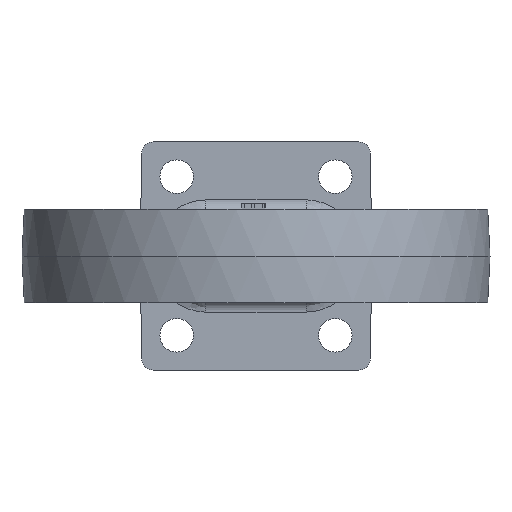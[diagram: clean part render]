
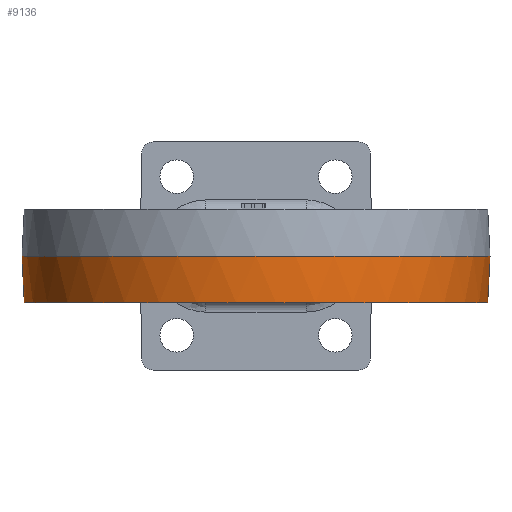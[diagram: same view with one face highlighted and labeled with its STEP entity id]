
A CAD part, front view. The second image highlights one B-rep face of the part: STEP entity #9136.
In plain terms, the highlighted conical face has half-angle 2.5 degrees and reference radius 62 mm.
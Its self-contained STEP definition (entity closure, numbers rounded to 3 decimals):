
#6047=CARTESIAN_POINT('',(25.863,56.859,-4.349));
#6048=VERTEX_POINT('',#6047);
#6066=CARTESIAN_POINT('',(25.874,57.063,0.));
#6067=VERTEX_POINT('',#6066);
#6081=CARTESIAN_POINT('',(25.874,57.063,0.));
#6082=CARTESIAN_POINT('',(25.871,56.995,-1.45));
#6083=CARTESIAN_POINT('',(25.867,56.927,-2.899));
#6084=CARTESIAN_POINT('',(25.863,56.859,-4.349));
#6085=B_SPLINE_CURVE_WITH_KNOTS('',3,(#6081,#6082,#6083,#6084),.UNSPECIFIED.,.F.,.U.,(4,4),(-2.459,-2.024),.UNSPECIFIED.);
#6086=EDGE_CURVE('',#6067,#6048,#6085,.T.);
#6120=CARTESIAN_POINT('',(-25.863,56.859,-4.349));
#6121=VERTEX_POINT('',#6120);
#6138=CARTESIAN_POINT('',(-25.874,57.063,0.));
#6139=VERTEX_POINT('',#6138);
#6140=CARTESIAN_POINT('',(-25.863,56.859,-4.349));
#6141=CARTESIAN_POINT('',(-25.867,56.927,-2.899));
#6142=CARTESIAN_POINT('',(-25.871,56.995,-1.45));
#6143=CARTESIAN_POINT('',(-25.874,57.063,0.));
#6144=B_SPLINE_CURVE_WITH_KNOTS('',3,(#6140,#6141,#6142,#6143),.UNSPECIFIED.,.F.,.U.,(4,4),(-1.438,-1.002),.UNSPECIFIED.);
#6145=EDGE_CURVE('',#6121,#6139,#6144,.T.);
#8664=CARTESIAN_POINT('',(18.612,59.255,-12.5));
#8665=VERTEX_POINT('',#8664);
#8681=CARTESIAN_POINT('',(25.863,56.859,-4.349));
#8682=CARTESIAN_POINT('',(25.861,56.86,-4.353));
#8683=CARTESIAN_POINT('',(25.858,56.861,-4.357));
#8684=CARTESIAN_POINT('',(25.855,56.862,-4.361));
#8685=CARTESIAN_POINT('',(25.355,57.054,-5.099));
#8686=CARTESIAN_POINT('',(24.338,57.431,-6.576));
#8687=CARTESIAN_POINT('',(22.703,57.998,-8.708));
#8688=CARTESIAN_POINT('',(21.131,58.508,-10.425));
#8689=CARTESIAN_POINT('',(19.822,58.906,-11.596));
#8690=CARTESIAN_POINT('',(19.045,59.132,-12.194));
#8691=CARTESIAN_POINT('',(18.695,59.232,-12.443));
#8692=CARTESIAN_POINT('',(18.612,59.255,-12.5));
#8693=B_SPLINE_CURVE_WITH_KNOTS('',3,(#8681,#8682,#8683,#8684,#8685,#8686,#8687,#8688,#8689,#8690,#8691,#8692),.UNSPECIFIED.,.F.,.U.,(4,3,1,1,1,1,1,4),(-1.947,-1.946,-1.668,-1.39,-1.112,-0.938,-0.834,-0.802),.UNSPECIFIED.);
#8694=EDGE_CURVE('',#6048,#8665,#8693,.T.);
#9085=CARTESIAN_POINT('',(0.0,0.0,-15.0));
#9086=DIRECTION('',(0.0,0.0,1.0));
#9087=DIRECTION('',(-1.0,0.0,0.0));
#9088=AXIS2_PLACEMENT_3D('',#9085,#9086,#9087);
#9089=CONICAL_SURFACE('',#9088,62.0,2.5);
#9090=CARTESIAN_POINT('',(0.0,0.0,0.0));
#9091=DIRECTION('',(0.0,0.0,-1.0));
#9092=DIRECTION('',(-1.0,0.0,0.0));
#9093=AXIS2_PLACEMENT_3D('',#9090,#9091,#9092);
#9094=CIRCLE('',#9093,62.655);
#9095=EDGE_CURVE('',#6067,#6139,#9094,.T.);
#9096=ORIENTED_EDGE('',*,*,#9095,.T.);
#9097=ORIENTED_EDGE('',*,*,#6145,.F.);
#9098=CARTESIAN_POINT('',(-18.612,59.255,-12.5));
#9099=VERTEX_POINT('',#9098);
#9100=CARTESIAN_POINT('',(-18.613,59.255,-12.5));
#9101=CARTESIAN_POINT('',(-18.695,59.231,-12.443));
#9102=CARTESIAN_POINT('',(-18.777,59.208,-12.385));
#9103=CARTESIAN_POINT('',(-18.858,59.185,-12.326));
#9104=CARTESIAN_POINT('',(-19.214,59.083,-12.068));
#9105=CARTESIAN_POINT('',(-19.559,58.982,-11.796));
#9106=CARTESIAN_POINT('',(-19.895,58.882,-11.513));
#9107=CARTESIAN_POINT('',(-20.23,58.782,-11.229));
#9108=CARTESIAN_POINT('',(-20.555,58.682,-10.934));
#9109=CARTESIAN_POINT('',(-20.872,58.584,-10.628));
#9110=CARTESIAN_POINT('',(-21.505,58.387,-10.016));
#9111=CARTESIAN_POINT('',(-22.104,58.192,-9.362));
#9112=CARTESIAN_POINT('',(-22.676,58.001,-8.68));
#9113=CARTESIAN_POINT('',(-23.248,57.809,-7.998));
#9114=CARTESIAN_POINT('',(-23.793,57.62,-7.287));
#9115=CARTESIAN_POINT('',(-24.32,57.431,-6.562));
#9116=CARTESIAN_POINT('',(-24.846,57.243,-5.838));
#9117=CARTESIAN_POINT('',(-25.355,57.054,-5.099));
#9118=CARTESIAN_POINT('',(-25.855,56.862,-4.361));
#9119=CARTESIAN_POINT('',(-25.858,56.861,-4.357));
#9120=CARTESIAN_POINT('',(-25.861,56.86,-4.353));
#9121=CARTESIAN_POINT('',(-25.863,56.859,-4.349));
#9122=B_SPLINE_CURVE_WITH_KNOTS('',3,(#9100,#9101,#9102,#9103,#9104,#9105,#9106,#9107,#9108,#9109,#9110,#9111,#9112,#9113,#9114,#9115,#9116,#9117,#9118,#9119,#9120,#9121),.UNSPECIFIED.,.F.,.U.,(4,3,3,3,3,3,3,4),(-1.144,-1.112,-0.973,-0.834,-0.556,-0.278,0.,0.002),.UNSPECIFIED.);
#9123=EDGE_CURVE('',#9099,#6121,#9122,.T.);
#9124=ORIENTED_EDGE('',*,*,#9123,.F.);
#9125=CARTESIAN_POINT('',(0.0,0.0,-12.5));
#9126=DIRECTION('',(0.0,0.0,1.0));
#9127=DIRECTION('',(-1.0,0.0,0.0));
#9128=AXIS2_PLACEMENT_3D('',#9125,#9126,#9127);
#9129=CIRCLE('',#9128,62.109);
#9130=EDGE_CURVE('',#9099,#8665,#9129,.T.);
#9131=ORIENTED_EDGE('',*,*,#9130,.T.);
#9132=ORIENTED_EDGE('',*,*,#8694,.F.);
#9133=ORIENTED_EDGE('',*,*,#6086,.F.);
#9134=EDGE_LOOP('',(#9096,#9097,#9124,#9131,#9132,#9133));
#9135=FACE_OUTER_BOUND('',#9134,.T.);
#9136=ADVANCED_FACE('',(#9135),#9089,.T.);
